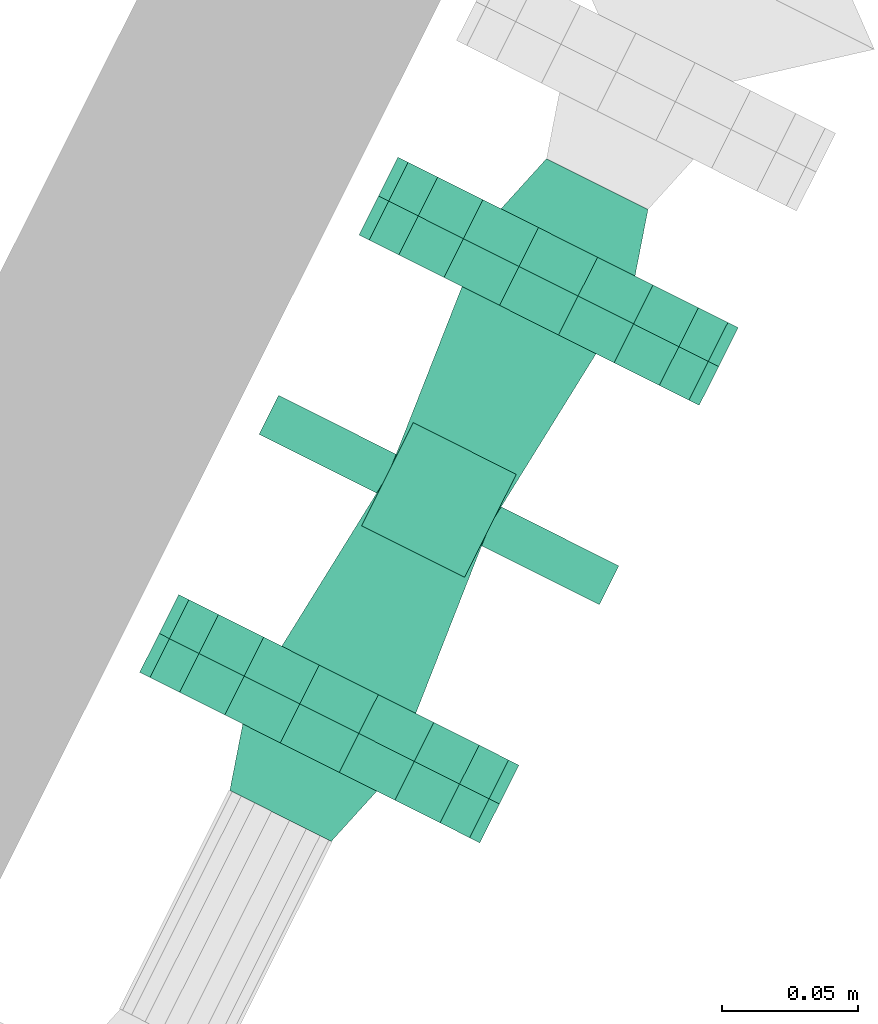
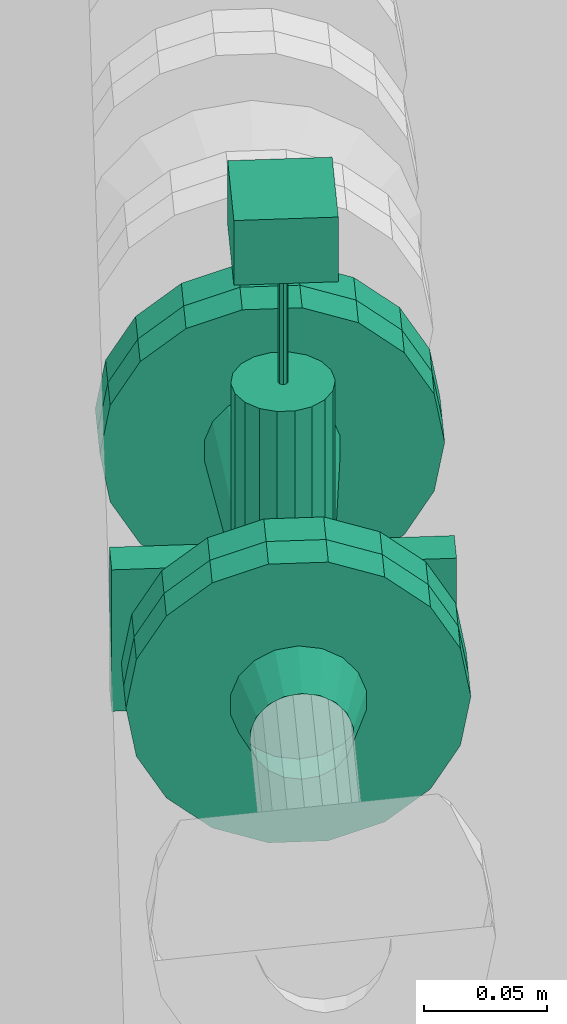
# One storey, part 146 of 206: 2 flow fittings, 1 flow controller.
"""IFC2X3 building model written with IfcOpenShell, lengths in metres."""

import ifcopenshell
import ifcopenshell.guid

model = None  # the IFC model being written
_history = None  # IfcOwnerHistory: only IFC2X3 demands one
_inside = {}  # id of a spatial element -> (the spatial element, [elements in it])
_under = {}  # id of a project, library or spatial element -> (it, [spatial elements below it])
_declared = {}  # id of a project -> (the project, [libraries it declares])
_typed = {}  # id of a type object -> (the type object, [elements of that type])
_made_of = {}  # id of a material, layer set ... -> (it, [elements and type objects made of it])


def new_model(schema):
    """Start an empty IFC model of exactly this schema.

    Asked for "IFC4X3", IfcOpenShell would pick the latest addendum, in which some entities
    have other attributes; the version numbers below select the first issue.
    IFC2X3 requires an IfcOwnerHistory on every rooted entity: one is made here for all.
    """
    global model, _history
    if schema == "IFC4X3":
        model = ifcopenshell.file(schema_version=(4, 3, 0, 0))
    else:
        model = ifcopenshell.file(schema=schema)
    _inside.clear()
    _under.clear()
    _declared.clear()
    _typed.clear()
    _made_of.clear()
    _history = None
    if model.schema == "IFC2X3":
        org = make("IfcOrganization", Name="unknown")
        user = make(
            "IfcPersonAndOrganization",
            ThePerson=make("IfcPerson", FamilyName="unknown"),
            TheOrganization=org,
        )
        app = make(
            "IfcApplication",
            ApplicationDeveloper=org,
            Version="unknown",
            ApplicationFullName="unknown",
            ApplicationIdentifier="unknown",
        )
        _history = make(
            "IfcOwnerHistory",
            OwningUser=user,
            OwningApplication=app,
            ChangeAction="ADDED",
            CreationDate=0,
        )
    return model


def make(cls, **values):
    """One entity of the class cls with the attributes given. An attribute that is None is left unset."""
    return model.create_entity(
        cls, **{name: value for name, value in values.items() if value is not None}
    )


def rooted(cls, **values):
    """An entity with a GlobalId (a new one), such as an element, a storey or a relation."""
    return make(cls, GlobalId=ifcopenshell.guid.new(), OwnerHistory=_history, **values)


def si_unit(unit_type, name, prefix=None):
    """IfcSIUnit, for example si_unit("LENGTHUNIT", "METRE", prefix="MILLI")."""
    return make("IfcSIUnit", UnitType=unit_type, Prefix=prefix, Name=name)


def derived_unit(unit_type, elements):
    """IfcDerivedUnit: a product of units, each with its exponent."""
    return make(
        "IfcDerivedUnit",
        Elements=[
            make("IfcDerivedUnitElement", Unit=unit, Exponent=power)
            for unit, power in elements
        ],
        UnitType=unit_type,
    )


def assignment(units):
    """IfcUnitAssignment: the units of a project."""
    return None if units is None else make("IfcUnitAssignment", Units=units)


def point(xyz):
    """IfcCartesianPoint."""
    return None if xyz is None else make("IfcCartesianPoint", Coordinates=xyz)


def direction(xyz):
    """IfcDirection."""
    return None if xyz is None else make("IfcDirection", DirectionRatios=xyz)


def frame(location, z_axis=None, x_axis=None):
    """IfcAxis2Placement3D, a coordinate frame: its origin and axes. An axis left out is left unset."""
    return make(
        "IfcAxis2Placement3D",
        Location=point(location),
        Axis=direction(z_axis),
        RefDirection=direction(x_axis),
    )


def origin():
    """The frame at (0, 0, 0) with its axes left unset."""
    return frame((0.0, 0.0, 0.0))


def place(relative_to, where):
    """IfcLocalPlacement: puts the frame where relative to a parent placement (None: the world)."""
    return make(
        "IfcLocalPlacement", PlacementRelTo=relative_to, RelativePlacement=where
    )


def context(
    kind, dimensions, precision=None, world=None, true_north=None, identifier=None
):
    """IfcGeometricRepresentationContext, for example the 3D "Model" context."""
    return make(
        "IfcGeometricRepresentationContext",
        ContextIdentifier=identifier,
        ContextType=kind,
        CoordinateSpaceDimension=dimensions,
        Precision=precision,
        WorldCoordinateSystem=world,
        TrueNorth=true_north,
    )


def subcontext(parent, identifier, kind, view, scale=None):
    """IfcGeometricRepresentationSubContext, for example "Body" below "Model"."""
    return make(
        "IfcGeometricRepresentationSubContext",
        ContextIdentifier=identifier,
        ContextType=kind,
        ParentContext=parent,
        TargetScale=scale,
        TargetView=view,
    )


def project(units=None, contexts=None):
    """IfcProject with its units and contexts."""
    return rooted(
        "IfcProject",
        Name="project",
        RepresentationContexts=contexts,
        UnitsInContext=assignment(units),
    )


def spatial(cls, under=None, at=None, **own):
    """A site, building, storey or space (cls), placed at a placement, below another one or the project."""
    s = rooted(cls, ObjectPlacement=at, **own)
    if under is not None:
        _under.setdefault(under.id(), (under, []))[1].append(s)
    return s


def faces_of(points, faces, orient=None, outer=None):
    """IfcFace entities. A face is a list of loops; a loop is a list of indices into points, from 0.

    orient and outer hold one flag for each loop. By default every Orientation is true, the
    first loop of a face is its IfcFaceOuterBound and the others are IfcFaceBound.
    """
    made = []
    for i, loops in enumerate(faces):
        bounds = []
        for j, loop in enumerate(loops):
            is_outer = j == 0 if outer is None else outer[i][j]
            bounds.append(
                make(
                    "IfcFaceOuterBound" if is_outer else "IfcFaceBound",
                    Bound=make("IfcPolyLoop", Polygon=[points[k] for k in loop]),
                    Orientation=True if orient is None else orient[i][j],
                )
            )
        made.append(make("IfcFace", Bounds=bounds))
    return made


def face_set(faces, orient=None, outer=None):
    """The faces of one IfcConnectedFaceSet. surface_model builds it on its shared points."""
    return ("IfcConnectedFaceSet", faces, orient, outer)


def surface_model(cls, points, shells):
    """IfcFaceBasedSurfaceModel or IfcShellBasedSurfaceModel (cls): surfaces that need not close."""
    shared = [point(p) for p in points]
    made = [make(c, CfsFaces=faces_of(shared, fs, o, b)) for c, fs, o, b in shells]
    if cls == "IfcFaceBasedSurfaceModel":
        return make(cls, FbsmFaces=made)
    return make(cls, SbsmBoundary=made)


def shape(context_of_items, identifier, shape_type, items):
    """IfcShapeRepresentation: the items that make up one representation, for example the "Body"."""
    return make(
        "IfcShapeRepresentation",
        ContextOfItems=context_of_items,
        RepresentationIdentifier=identifier,
        RepresentationType=shape_type,
        Items=items,
    )


def source(mapping_origin, context_of_items, identifier, shape_type, items):
    """IfcRepresentationMap: a shape defined once, which mapped items show again and again."""
    return make(
        "IfcRepresentationMap",
        MappingOrigin=mapping_origin,
        MappedRepresentation=shape(context_of_items, identifier, shape_type, items),
    )


def transform(
    local_origin,
    x_axis=None,
    y_axis=None,
    z_axis=None,
    scale=None,
    scale2=None,
    scale3=None,
    uniform=True,
):
    """IfcCartesianTransformationOperator3D, or its non-uniform kind. x_axis, y_axis, z_axis: its Axis1, 2, 3."""
    if uniform:
        return make(
            "IfcCartesianTransformationOperator3D",
            Axis1=direction(x_axis),
            Axis2=direction(y_axis),
            LocalOrigin=point(local_origin),
            Scale=scale,
            Axis3=direction(z_axis),
        )
    return make(
        "IfcCartesianTransformationOperator3DnonUniform",
        Axis1=direction(x_axis),
        Axis2=direction(y_axis),
        LocalOrigin=point(local_origin),
        Scale=scale,
        Axis3=direction(z_axis),
        Scale2=scale2,
        Scale3=scale3,
    )


def mapped(mapping_source, mapping_target):
    """IfcMappedItem: shows the shape of a source again, moved by a transform."""
    return make(
        "IfcMappedItem", MappingSource=mapping_source, MappingTarget=mapping_target
    )


def material(Name=None, Category=None):
    """IfcMaterial."""
    return make("IfcMaterial", Name=Name, Category=Category)


def made_of(thing, what):
    """Note that an element or type object is made of a material, layer set ...; save() writes the relation."""
    if what is not None:
        _made_of.setdefault(what.id(), (what, []))[1].append(thing)
    return thing


def type_object(cls, material=None, **own):
    """A type object (cls), such as IfcWallType, which elements share."""
    return made_of(rooted(cls, **own), material)


def type_shapes(of_type, sources):
    """Give a type object the sources (RepresentationMaps) that its elements show as mapped items."""
    of_type.RepresentationMaps = sources


def element(
    cls,
    number,
    at=None,
    inside=None,
    cuts=None,
    type_object=None,
    material=None,
    context=None,
    identifier="Body",
    shape_type=None,
    held_by="IfcProductDefinitionShape",
    body=None,
    shapes=None,
    **own,
):
    """One element of the class cls, such as IfcWall. Its Tag is "e" and its number.

    at: its placement. inside: the storey or other place that contains it. cuts: it is an
    opening in that element (IfcRelVoidsElement). A single representation is given by context,
    identifier, shape_type and body (its items); several are given by shapes. held_by: the class
    of the entity that holds the representations. save() writes the other relations.
    """
    e = rooted(cls, Tag="e%d" % number, ObjectPlacement=at, **own)
    if body is not None:
        shapes = [shape(context, identifier, shape_type, body)]
    if shapes is not None:
        e.Representation = make(held_by, Representations=shapes)
    if inside is not None:
        _inside.setdefault(inside.id(), (inside, []))[1].append(e)
    if cuts is not None:
        rooted(
            "IfcRelVoidsElement", RelatingBuildingElement=cuts, RelatedOpeningElement=e
        )
    if type_object is not None:
        _typed.setdefault(type_object.id(), (type_object, []))[1].append(e)
    return made_of(e, material)


def aggregate(whole, parts):
    """IfcRelAggregates: a whole, such as a stair, and the parts it consists of."""
    return rooted("IfcRelAggregates", RelatingObject=whole, RelatedObjects=parts)


def save(model, path):
    """Write the relations noted so far, then the file.

    IfcRelAggregates (storeys below a building ...), IfcRelContainedInSpatialStructure (elements
    in a storey), IfcRelDefinesByType, IfcRelAssociatesMaterial and IfcRelDeclares: one each for
    every whole, place, type object, material and project.
    """
    for whole, parts in _under.values():
        aggregate(whole, parts)
    for where, things in _inside.values():
        rooted(
            "IfcRelContainedInSpatialStructure",
            RelatedElements=things,
            RelatingStructure=where,
        )
    for kind, things in _typed.values():
        rooted("IfcRelDefinesByType", RelatedObjects=things, RelatingType=kind)
    for what, things in _made_of.values():
        rooted("IfcRelAssociatesMaterial", RelatedObjects=things, RelatingMaterial=what)
    for by, libraries in _declared.values():
        rooted("IfcRelDeclares", RelatingContext=by, RelatedDefinitions=libraries)
    model.write(path)


model = new_model("IFC2X3")

# Units and contexts
model_context = context("Model", 3, precision=5.2338327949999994e-05, world=origin(), true_north=direction((0.0, 1.0)))
body_context = subcontext(model_context, "Body", "Model", "MODEL_VIEW")
ifc_project = project(units=[si_unit("LENGTHUNIT", "METRE"), si_unit("AREAUNIT", "SQUARE_METRE"), si_unit("VOLUMEUNIT", "CUBIC_METRE"), si_unit("MASSUNIT", "GRAM", prefix="KILO"), si_unit("PLANEANGLEUNIT", "RADIAN"), derived_unit("THERMALTRANSMITTANCEUNIT", [(si_unit("MASSUNIT", "GRAM", prefix="KILO"), 1), (si_unit("THERMODYNAMICTEMPERATUREUNIT", "KELVIN"), -1), (si_unit("TIMEUNIT", "SECOND"), -3)])], contexts=[model_context])

# Site, building, storey
site_placement = place(None, frame((0.0, 0.0, 0.0), z_axis=(0.0, 0.0, 1.0), x_axis=(0.8939966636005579, -0.4480736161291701, 0.0)))
site = spatial("IfcSite", under=ifc_project, at=site_placement, Name="Default", CompositionType="ELEMENT")
building_placement = place(site_placement, origin())
building = spatial("IfcBuilding", under=site, at=building_placement, CompositionType="ELEMENT")
storey_placement = place(building_placement, origin())
storey = spatial("IfcBuildingStorey", under=building, at=storey_placement, Name="Erdgeschoss", CompositionType="ELEMENT", Elevation=0.0)

# Flow fitting
ifc_material = material(Name="IfcSurfaceStyle #352577")
distribution_element_type_1 = type_object("IfcDistributionElementType", Name="Flansch 608632:Flansch 608632", material=ifc_material)
shared_shape_1 = source(origin(), body_context, "Body", "SurfaceModel", [
    surface_model("IfcFaceBasedSurfaceModel", [(29.08181854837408, 9.155162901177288, 1.5628041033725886), (29.074567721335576, 9.155162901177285, 1.5640826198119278), (29.072241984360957, 9.179162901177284, 1.5576927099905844), (29.08181854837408, 9.179162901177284, 1.5560041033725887), (29.06819145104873, 9.155162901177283, 1.5677639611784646), (29.06382049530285, 9.17916290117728, 1.5625548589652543), (29.063458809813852, 9.155162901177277, 1.5734041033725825), (29.05756983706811, 9.179162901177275, 1.5700041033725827), (29.060940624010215, 9.155162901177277, 1.5803227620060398), (29.054243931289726, 9.179162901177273, 1.579141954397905), (29.06094062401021, 9.155162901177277, 1.5876854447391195), (29.054243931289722, 9.179162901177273, 1.5888662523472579), (29.06345880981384, 9.155162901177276, 1.5946041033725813), (29.057569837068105, 9.179162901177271, 1.5980041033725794), (29.068191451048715, 9.15516290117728, 1.6002442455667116), (29.063820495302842, 9.179162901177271, 1.6054533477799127), (29.074567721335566, 9.15516290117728, 1.6039255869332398), (29.072241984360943, 9.179162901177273, 1.6103154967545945), (29.081818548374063, 9.155162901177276, 1.6052041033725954), (29.08181854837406, 9.179162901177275, 1.612004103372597), (29.08906937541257, 9.155162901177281, 1.603925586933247), (29.091395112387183, 9.17916290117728, 1.6103154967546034), (29.095445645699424, 9.155162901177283, 1.600244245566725), (29.099816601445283, 9.17916290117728, 1.6054533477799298), (29.1001782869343, 9.155162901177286, 1.594604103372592), (29.10606725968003, 9.179162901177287, 1.5980041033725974), (29.102696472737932, 9.155162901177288, 1.587685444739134), (29.10939316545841, 9.179162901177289, 1.5888662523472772), (29.102696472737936, 9.155162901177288, 1.5803227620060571), (29.109393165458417, 9.179162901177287, 1.5791419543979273), (29.10017828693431, 9.15516290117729, 1.5734041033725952), (29.10606725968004, 9.179162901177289, 1.5700041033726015), (29.09544564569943, 9.15516290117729, 1.5677639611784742), (29.0998166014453, 9.17916290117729, 1.5625548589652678), (29.08906937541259, 9.15516290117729, 1.5640826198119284), (29.0913951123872, 9.179162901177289, 1.5576927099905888), (29.15181854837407, 9.1791629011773, 1.5840041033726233), (29.14759703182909, 9.179162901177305, 1.5600626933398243), (29.147597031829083, 9.195162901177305, 1.5600626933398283), (29.15181854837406, 9.195162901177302, 1.5840041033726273), (29.135441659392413, 9.179162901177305, 1.539008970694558), (29.135441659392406, 9.195162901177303, 1.5390089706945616), (29.116818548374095, 9.179162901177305, 1.5233823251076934), (29.116818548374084, 9.195162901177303, 1.523382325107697), (29.093973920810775, 9.179162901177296, 1.515067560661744), (29.093973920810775, 9.195162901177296, 1.5150675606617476), (29.06966317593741, 9.17916290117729, 1.5150675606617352), (29.069663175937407, 9.195162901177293, 1.515067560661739), (29.046818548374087, 9.179162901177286, 1.5233823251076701), (29.046818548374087, 9.195162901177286, 1.5233823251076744), (29.028195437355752, 9.179162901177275, 1.539008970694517), (29.028195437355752, 9.195162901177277, 1.5390089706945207), (29.01604006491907, 9.17916290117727, 1.560062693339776), (29.01604006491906, 9.195162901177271, 1.56006269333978), (29.011818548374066, 9.179162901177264, 1.5840041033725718), (29.011818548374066, 9.195162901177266, 1.5840041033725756), (29.016040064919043, 9.179162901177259, 1.607945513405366), (29.016040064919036, 9.19516290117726, 1.6079455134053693), (29.028195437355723, 9.17916290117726, 1.6289992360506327), (29.028195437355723, 9.19516290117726, 1.6289992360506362), (29.046818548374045, 9.179162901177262, 1.6446258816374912), (29.04681854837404, 9.195162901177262, 1.644625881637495), (29.06966317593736, 9.179162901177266, 1.6529406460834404), (29.06966317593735, 9.195162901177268, 1.6529406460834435), (29.09397392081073, 9.179162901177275, 1.6529406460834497), (29.09397392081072, 9.195162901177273, 1.6529406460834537), (29.11681854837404, 9.17916290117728, 1.644625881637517), (29.116818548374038, 9.19516290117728, 1.6446258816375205), (29.135441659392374, 9.179162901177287, 1.6289992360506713), (29.135441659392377, 9.195162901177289, 1.628999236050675), (29.14759703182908, 9.179162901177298, 1.6079455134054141), (29.14759703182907, 9.195162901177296, 1.6079455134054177), (29.081818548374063, 9.179162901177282, 1.5840041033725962)], [face_set([[[0, 1, 2, 3]], [[1, 4, 5, 2]], [[4, 6, 7, 5]], [[6, 8, 9, 7]], [[8, 10, 11, 9]], [[10, 12, 13, 11]], [[12, 14, 15, 13]], [[14, 16, 17, 15]], [[16, 18, 19, 17]], [[18, 20, 21, 19]], [[20, 22, 23, 21]], [[22, 24, 25, 23]], [[24, 26, 27, 25]], [[26, 28, 29, 27]], [[28, 30, 31, 29]], [[30, 32, 33, 31]], [[32, 34, 35, 33]], [[34, 0, 3, 35]], [[36, 37, 38, 39]], [[37, 40, 41, 38]], [[40, 42, 43, 41]], [[42, 44, 45, 43]], [[44, 46, 47, 45]], [[46, 48, 49, 47]], [[48, 50, 51, 49]], [[50, 52, 53, 51]], [[52, 54, 55, 53]], [[54, 56, 57, 55]], [[56, 58, 59, 57]], [[58, 60, 61, 59]], [[60, 62, 63, 61]], [[62, 64, 65, 63]], [[64, 66, 67, 65]], [[66, 68, 69, 67]], [[68, 70, 71, 69]], [[70, 36, 39, 71]], [[72, 37, 36]], [[72, 40, 37]], [[72, 42, 40]], [[72, 44, 42]], [[72, 46, 44]], [[72, 48, 46]], [[72, 50, 48]], [[72, 52, 50]], [[72, 54, 52]], [[72, 56, 54]], [[72, 58, 56]], [[72, 60, 58]], [[72, 62, 60]], [[72, 64, 62]], [[72, 66, 64]], [[72, 68, 66]], [[72, 70, 68]], [[72, 36, 70]]])]),
])
type_shapes(distribution_element_type_1, [shared_shape_1])
flow_fitting_1_placement = place(storey_placement, origin())
element("IfcFlowFitting", 1, at=flow_fitting_1_placement, inside=storey, type_object=distribution_element_type_1, material=ifc_material, Name="Flansch", ObjectType="Flansch", context=body_context, shape_type="MappedRepresentation", body=[
    mapped(shared_shape_1, transform((0.0, 0.0, 0.0), scale=1.0)),
])

# Flow controller
distribution_element_type_2 = type_object("IfcDistributionElementType", Name="Schieber 608661:Schieber 608661", material=ifc_material)
shared_shape_2 = source(origin(), body_context, "Body", "SurfaceModel", [
    surface_model("IfcFaceBasedSurfaceModel", [(29.060618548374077, 9.263962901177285, 1.7320041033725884), (29.060618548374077, 9.306362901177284, 1.7320041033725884), (29.103018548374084, 9.306362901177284, 1.7320041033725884), (29.103018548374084, 9.263962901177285, 1.7320041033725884), (29.103018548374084, 9.306362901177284, 1.7640041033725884), (29.103018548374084, 9.263962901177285, 1.7640041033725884), (29.060618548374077, 9.306362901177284, 1.7640041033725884), (29.060618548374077, 9.263962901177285, 1.7640041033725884), (29.151818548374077, 9.195162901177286, 1.5840041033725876), (29.147597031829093, 9.195162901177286, 1.5600626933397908), (29.147597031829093, 9.211162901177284, 1.5600626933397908), (29.151818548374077, 9.211162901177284, 1.5840041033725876), (29.135441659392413, 9.195162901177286, 1.5390089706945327), (29.135441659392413, 9.211162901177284, 1.5390089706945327), (29.11681854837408, 9.195162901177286, 1.5233823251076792), (29.11681854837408, 9.211162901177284, 1.5233823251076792), (29.093973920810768, 9.195162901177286, 1.5150675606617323), (29.093973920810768, 9.211162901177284, 1.5150675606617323), (29.069663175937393, 9.195162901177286, 1.5150675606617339), (29.069663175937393, 9.211162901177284, 1.5150675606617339), (29.046818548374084, 9.195162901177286, 1.5233823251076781), (29.046818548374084, 9.211162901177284, 1.5233823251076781), (29.028195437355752, 9.195162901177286, 1.5390089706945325), (29.028195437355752, 9.211162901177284, 1.5390089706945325), (29.016040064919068, 9.195162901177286, 1.5600626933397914), (29.016040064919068, 9.211162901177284, 1.5600626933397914), (29.011818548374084, 9.195162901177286, 1.5840041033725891), (29.011818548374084, 9.211162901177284, 1.5840041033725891), (29.016040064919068, 9.195162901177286, 1.6079455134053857), (29.016040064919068, 9.211162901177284, 1.6079455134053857), (29.028195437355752, 9.195162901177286, 1.6289992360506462), (29.028195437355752, 9.211162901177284, 1.6289992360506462), (29.046818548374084, 9.195162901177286, 1.644625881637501), (29.046818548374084, 9.211162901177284, 1.644625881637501), (29.069663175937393, 9.195162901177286, 1.6529406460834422), (29.069663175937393, 9.211162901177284, 1.6529406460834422), (29.093973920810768, 9.195162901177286, 1.652940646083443), (29.093973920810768, 9.211162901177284, 1.652940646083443), (29.11681854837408, 9.195162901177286, 1.6446258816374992), (29.11681854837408, 9.211162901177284, 1.6446258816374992), (29.135441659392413, 9.195162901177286, 1.6289992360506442), (29.135441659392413, 9.211162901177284, 1.6289992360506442), (29.147597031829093, 9.195162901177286, 1.6079455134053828), (29.147597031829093, 9.211162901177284, 1.6079455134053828), (29.08181854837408, 9.195162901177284, 1.5840041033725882), (29.08181854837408, 9.211162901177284, 1.5840041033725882), (29.08181854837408, 9.211162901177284, 1.5560041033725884), (29.07224198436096, 9.211162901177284, 1.5576927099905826), (29.07456772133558, 9.285162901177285, 1.564082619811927), (29.081818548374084, 9.285162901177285, 1.5628041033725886), (29.06382049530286, 9.211162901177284, 1.5625548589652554), (29.06819145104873, 9.285162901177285, 1.5677639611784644), (29.057569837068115, 9.211162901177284, 1.570004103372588), (29.063458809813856, 9.285162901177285, 1.573404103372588), (29.05424393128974, 9.211162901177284, 1.5791419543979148), (29.060940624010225, 9.285162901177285, 1.5803227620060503), (29.054243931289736, 9.211162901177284, 1.5888662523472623), (29.06094062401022, 9.285162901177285, 1.587685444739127), (29.057569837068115, 9.211162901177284, 1.5980041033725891), (29.063458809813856, 9.285162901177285, 1.594604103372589), (29.06382049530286, 9.211162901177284, 1.6054533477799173), (29.06819145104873, 9.285162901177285, 1.6002442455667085), (29.07224198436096, 9.211162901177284, 1.610315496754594), (29.07456772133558, 9.285162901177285, 1.6039255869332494), (29.08181854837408, 9.211162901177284, 1.6120041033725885), (29.081818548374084, 9.285162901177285, 1.6052041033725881), (29.0913951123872, 9.211162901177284, 1.6103154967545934), (29.08906937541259, 9.285162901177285, 1.6039255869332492), (29.0998166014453, 9.211162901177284, 1.6054533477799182), (29.095445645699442, 9.285162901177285, 1.6002442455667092), (29.106067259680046, 9.211162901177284, 1.5980041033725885), (29.100178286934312, 9.285162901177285, 1.5946041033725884), (29.109393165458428, 9.211162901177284, 1.588866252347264), (29.102696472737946, 9.285162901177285, 1.5876854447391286), (29.109393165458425, 9.211162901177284, 1.5791419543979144), (29.10269647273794, 9.285162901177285, 1.5803227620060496), (29.106067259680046, 9.211162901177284, 1.5700041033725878), (29.10017828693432, 9.285162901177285, 1.5734041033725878), (29.0998166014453, 9.211162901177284, 1.5625548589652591), (29.095445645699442, 9.285162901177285, 1.5677639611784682), (29.0913951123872, 9.211162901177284, 1.5576927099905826), (29.08906937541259, 9.285162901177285, 1.564082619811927), (29.072241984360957, 9.359162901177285, 1.5576927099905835), (29.08181854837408, 9.359162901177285, 1.556004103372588), (29.063820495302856, 9.359162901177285, 1.5625548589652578), (29.05756983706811, 9.359162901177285, 1.570004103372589), (29.054243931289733, 9.359162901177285, 1.5791419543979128), (29.054243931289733, 9.359162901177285, 1.588866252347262), (29.05756983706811, 9.359162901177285, 1.5980041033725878), (29.063820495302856, 9.359162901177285, 1.6054533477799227), (29.072241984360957, 9.359162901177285, 1.6103154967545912), (29.08181854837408, 9.359162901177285, 1.6120041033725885), (29.091395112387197, 9.359162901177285, 1.610315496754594), (29.0998166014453, 9.359162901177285, 1.6054533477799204), (29.10606725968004, 9.359162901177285, 1.598004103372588), (29.10939316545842, 9.359162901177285, 1.5888662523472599), (29.109393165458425, 9.359162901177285, 1.5791419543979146), (29.10606725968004, 9.359162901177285, 1.570004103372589), (29.0998166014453, 9.359162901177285, 1.5625548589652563), (29.091395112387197, 9.359162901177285, 1.557692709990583), (29.151818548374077, 9.359162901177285, 1.5840041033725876), (29.147597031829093, 9.359162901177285, 1.5600626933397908), (29.147597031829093, 9.375162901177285, 1.5600626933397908), (29.151818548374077, 9.375162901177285, 1.5840041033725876), (29.135441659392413, 9.359162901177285, 1.5390089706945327), (29.135441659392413, 9.375162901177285, 1.5390089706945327), (29.11681854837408, 9.359162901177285, 1.5233823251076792), (29.11681854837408, 9.375162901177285, 1.5233823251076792), (29.093973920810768, 9.359162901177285, 1.5150675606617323), (29.093973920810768, 9.375162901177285, 1.5150675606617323), (29.069663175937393, 9.359162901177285, 1.5150675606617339), (29.069663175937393, 9.375162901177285, 1.5150675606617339), (29.046818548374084, 9.359162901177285, 1.5233823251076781), (29.046818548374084, 9.375162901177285, 1.5233823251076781), (29.028195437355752, 9.359162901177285, 1.5390089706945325), (29.028195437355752, 9.375162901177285, 1.5390089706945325), (29.016040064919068, 9.359162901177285, 1.5600626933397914), (29.016040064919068, 9.375162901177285, 1.5600626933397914), (29.011818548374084, 9.359162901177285, 1.5840041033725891), (29.011818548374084, 9.375162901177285, 1.5840041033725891), (29.016040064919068, 9.359162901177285, 1.6079455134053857), (29.016040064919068, 9.375162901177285, 1.6079455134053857), (29.028195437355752, 9.359162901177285, 1.6289992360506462), (29.028195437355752, 9.375162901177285, 1.6289992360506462), (29.046818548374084, 9.359162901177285, 1.644625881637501), (29.046818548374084, 9.375162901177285, 1.644625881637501), (29.069663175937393, 9.359162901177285, 1.6529406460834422), (29.069663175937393, 9.375162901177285, 1.6529406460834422), (29.093973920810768, 9.359162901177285, 1.652940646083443), (29.093973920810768, 9.375162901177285, 1.652940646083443), (29.11681854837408, 9.359162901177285, 1.6446258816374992), (29.11681854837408, 9.375162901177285, 1.6446258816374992), (29.135441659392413, 9.359162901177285, 1.6289992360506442), (29.135441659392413, 9.375162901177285, 1.6289992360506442), (29.147597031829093, 9.359162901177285, 1.6079455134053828), (29.147597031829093, 9.375162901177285, 1.6079455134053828), (29.08181854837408, 9.359162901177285, 1.5840041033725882), (29.08181854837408, 9.375162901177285, 1.5840041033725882), (29.10301854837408, 9.285162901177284, 1.5840041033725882), (29.101740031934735, 9.292413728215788, 1.5840041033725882), (29.101740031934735, 9.292413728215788, 1.668604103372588), (29.10301854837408, 9.285162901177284, 1.668604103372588), (29.098058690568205, 9.298789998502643, 1.5840041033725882), (29.098058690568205, 9.298789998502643, 1.668604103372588), (29.092418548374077, 9.303522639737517, 1.5840041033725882), (29.092418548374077, 9.303522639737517, 1.668604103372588), (29.085499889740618, 9.306040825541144, 1.5840041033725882), (29.085499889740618, 9.306040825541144, 1.668604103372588), (29.078137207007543, 9.306040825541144, 1.5840041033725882), (29.078137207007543, 9.306040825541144, 1.668604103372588), (29.071218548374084, 9.303522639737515, 1.5840041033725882), (29.071218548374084, 9.303522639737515, 1.668604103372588), (29.065578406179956, 9.298789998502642, 1.5840041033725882), (29.065578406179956, 9.298789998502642, 1.668604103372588), (29.06189706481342, 9.292413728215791, 1.5840041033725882), (29.06189706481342, 9.292413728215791, 1.668604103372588), (29.060618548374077, 9.285162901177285, 1.5840041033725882), (29.060618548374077, 9.285162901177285, 1.668604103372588), (29.061897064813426, 9.277912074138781, 1.5840041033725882), (29.061897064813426, 9.277912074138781, 1.668604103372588), (29.065578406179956, 9.27153580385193, 1.5840041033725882), (29.065578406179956, 9.27153580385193, 1.668604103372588), (29.071218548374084, 9.266803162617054, 1.5840041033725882), (29.071218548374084, 9.266803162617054, 1.668604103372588), (29.078137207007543, 9.264284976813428, 1.5840041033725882), (29.078137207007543, 9.264284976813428, 1.668604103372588), (29.085499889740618, 9.264284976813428, 1.5840041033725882), (29.085499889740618, 9.264284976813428, 1.668604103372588), (29.092418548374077, 9.266803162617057, 1.5840041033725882), (29.092418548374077, 9.266803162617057, 1.668604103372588), (29.098058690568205, 9.27153580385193, 1.5840041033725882), (29.098058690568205, 9.27153580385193, 1.668604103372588), (29.10174003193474, 9.27791207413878, 1.5840041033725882), (29.10174003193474, 9.27791207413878, 1.668604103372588), (29.08181854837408, 9.285162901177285, 1.584004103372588), (29.08181854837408, 9.285162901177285, 1.668604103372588), (29.08393854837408, 9.285162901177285, 1.668604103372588), (29.083317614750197, 9.286661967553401, 1.668604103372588), (29.083317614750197, 9.286661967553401, 1.7320041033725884), (29.08393854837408, 9.285162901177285, 1.7320041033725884), (29.08181854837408, 9.287282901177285, 1.668604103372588), (29.08181854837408, 9.287282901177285, 1.7320041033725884), (29.080319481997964, 9.286661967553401, 1.668604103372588), (29.080319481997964, 9.286661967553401, 1.7320041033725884), (29.079698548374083, 9.285162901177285, 1.668604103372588), (29.079698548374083, 9.285162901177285, 1.7320041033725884), (29.080319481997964, 9.28366383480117, 1.668604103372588), (29.080319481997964, 9.28366383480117, 1.7320041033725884), (29.08181854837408, 9.283042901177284, 1.668604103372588), (29.08181854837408, 9.283042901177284, 1.7320041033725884), (29.083317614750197, 9.283663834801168, 1.668604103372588), (29.083317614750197, 9.283663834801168, 1.7320041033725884), (29.08181854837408, 9.285162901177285, 1.732004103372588), (29.011818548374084, 9.277162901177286, 1.5140041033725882), (29.011818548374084, 9.293162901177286, 1.5140041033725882), (29.151818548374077, 9.293162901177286, 1.5140041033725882), (29.151818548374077, 9.277162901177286, 1.5140041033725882), (29.151818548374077, 9.293162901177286, 1.5840041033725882), (29.151818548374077, 9.277162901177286, 1.5840041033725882), (29.011818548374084, 9.293162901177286, 1.5840041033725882), (29.011818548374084, 9.277162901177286, 1.5840041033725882)], [face_set([[[0, 1, 2, 3]], [[3, 2, 4, 5]], [[5, 4, 6, 7]], [[7, 6, 1, 0]], [[0, 3, 5, 7]], [[6, 4, 2, 1]], [[8, 9, 10, 11]], [[9, 12, 13, 10]], [[12, 14, 15, 13]], [[14, 16, 17, 15]], [[16, 18, 19, 17]], [[18, 20, 21, 19]], [[20, 22, 23, 21]], [[22, 24, 25, 23]], [[24, 26, 27, 25]], [[26, 28, 29, 27]], [[28, 30, 31, 29]], [[30, 32, 33, 31]], [[32, 34, 35, 33]], [[34, 36, 37, 35]], [[36, 38, 39, 37]], [[38, 40, 41, 39]], [[40, 42, 43, 41]], [[42, 8, 11, 43]], [[44, 9, 8]], [[44, 12, 9]], [[44, 14, 12]], [[44, 16, 14]], [[44, 18, 16]], [[44, 20, 18]], [[44, 22, 20]], [[44, 24, 22]], [[44, 26, 24]], [[44, 28, 26]], [[44, 30, 28]], [[44, 32, 30]], [[44, 34, 32]], [[44, 36, 34]], [[44, 38, 36]], [[44, 40, 38]], [[44, 42, 40]], [[44, 8, 42]], [[45, 43, 11]], [[45, 41, 43]], [[45, 39, 41]], [[45, 37, 39]], [[45, 35, 37]], [[45, 33, 35]], [[45, 31, 33]], [[45, 29, 31]], [[45, 27, 29]], [[45, 25, 27]], [[45, 23, 25]], [[45, 21, 23]], [[45, 19, 21]], [[45, 17, 19]], [[45, 15, 17]], [[45, 13, 15]], [[45, 10, 13]], [[45, 11, 10]], [[46, 47, 48, 49]], [[47, 50, 51, 48]], [[50, 52, 53, 51]], [[52, 54, 55, 53]], [[54, 56, 57, 55]], [[56, 58, 59, 57]], [[58, 60, 61, 59]], [[60, 62, 63, 61]], [[62, 64, 65, 63]], [[64, 66, 67, 65]], [[66, 68, 69, 67]], [[68, 70, 71, 69]], [[70, 72, 73, 71]], [[72, 74, 75, 73]], [[74, 76, 77, 75]], [[76, 78, 79, 77]], [[78, 80, 81, 79]], [[80, 46, 49, 81]], [[49, 48, 82, 83]], [[48, 51, 84, 82]], [[51, 53, 85, 84]], [[53, 55, 86, 85]], [[55, 57, 87, 86]], [[57, 59, 88, 87]], [[59, 61, 89, 88]], [[61, 63, 90, 89]], [[63, 65, 91, 90]], [[65, 67, 92, 91]], [[67, 69, 93, 92]], [[69, 71, 94, 93]], [[71, 73, 95, 94]], [[73, 75, 96, 95]], [[75, 77, 97, 96]], [[77, 79, 98, 97]], [[79, 81, 99, 98]], [[81, 49, 83, 99]], [[100, 101, 102, 103]], [[101, 104, 105, 102]], [[104, 106, 107, 105]], [[106, 108, 109, 107]], [[108, 110, 111, 109]], [[110, 112, 113, 111]], [[112, 114, 115, 113]], [[114, 116, 117, 115]], [[116, 118, 119, 117]], [[118, 120, 121, 119]], [[120, 122, 123, 121]], [[122, 124, 125, 123]], [[124, 126, 127, 125]], [[126, 128, 129, 127]], [[128, 130, 131, 129]], [[130, 132, 133, 131]], [[132, 134, 135, 133]], [[134, 100, 103, 135]], [[136, 101, 100]], [[136, 104, 101]], [[136, 106, 104]], [[136, 108, 106]], [[136, 110, 108]], [[136, 112, 110]], [[136, 114, 112]], [[136, 116, 114]], [[136, 118, 116]], [[136, 120, 118]], [[136, 122, 120]], [[136, 124, 122]], [[136, 126, 124]], [[136, 128, 126]], [[136, 130, 128]], [[136, 132, 130]], [[136, 134, 132]], [[136, 100, 134]], [[137, 135, 103]], [[137, 133, 135]], [[137, 131, 133]], [[137, 129, 131]], [[137, 127, 129]], [[137, 125, 127]], [[137, 123, 125]], [[137, 121, 123]], [[137, 119, 121]], [[137, 117, 119]], [[137, 115, 117]], [[137, 113, 115]], [[137, 111, 113]], [[137, 109, 111]], [[137, 107, 109]], [[137, 105, 107]], [[137, 102, 105]], [[137, 103, 102]], [[138, 139, 140, 141]], [[139, 142, 143, 140]], [[142, 144, 145, 143]], [[144, 146, 147, 145]], [[146, 148, 149, 147]], [[148, 150, 151, 149]], [[150, 152, 153, 151]], [[152, 154, 155, 153]], [[154, 156, 157, 155]], [[156, 158, 159, 157]], [[158, 160, 161, 159]], [[160, 162, 163, 161]], [[162, 164, 165, 163]], [[164, 166, 167, 165]], [[166, 168, 169, 167]], [[168, 170, 171, 169]], [[170, 172, 173, 171]], [[172, 138, 141, 173]], [[174, 139, 138]], [[174, 142, 139]], [[174, 144, 142]], [[174, 146, 144]], [[174, 148, 146]], [[174, 150, 148]], [[174, 152, 150]], [[174, 154, 152]], [[174, 156, 154]], [[174, 158, 156]], [[174, 160, 158]], [[174, 162, 160]], [[174, 164, 162]], [[174, 166, 164]], [[174, 168, 166]], [[174, 170, 168]], [[174, 172, 170]], [[174, 138, 172]], [[175, 173, 141]], [[175, 171, 173]], [[175, 169, 171]], [[175, 167, 169]], [[175, 165, 167]], [[175, 163, 165]], [[175, 161, 163]], [[175, 159, 161]], [[175, 157, 159]], [[175, 155, 157]], [[175, 153, 155]], [[175, 151, 153]], [[175, 149, 151]], [[175, 147, 149]], [[175, 145, 147]], [[175, 143, 145]], [[175, 140, 143]], [[175, 141, 140]], [[176, 177, 178, 179]], [[177, 180, 181, 178]], [[180, 182, 183, 181]], [[182, 184, 185, 183]], [[184, 186, 187, 185]], [[186, 188, 189, 187]], [[188, 190, 191, 189]], [[190, 176, 179, 191]], [[192, 191, 179]], [[192, 189, 191]], [[192, 187, 189]], [[192, 185, 187]], [[192, 183, 185]], [[192, 181, 183]], [[192, 178, 181]], [[192, 179, 178]], [[193, 194, 195, 196]], [[196, 195, 197, 198]], [[198, 197, 199, 200]], [[200, 199, 194, 193]], [[193, 196, 198, 200]], [[199, 197, 195, 194]]])]),
])
type_shapes(distribution_element_type_2, [shared_shape_2])
flow_controller_placement = place(storey_placement, origin())
element("IfcFlowController", 2, at=flow_controller_placement, inside=storey, type_object=distribution_element_type_2, material=ifc_material, Name="Schieber", ObjectType="Schieber", context=body_context, shape_type="MappedRepresentation", body=[
    mapped(shared_shape_2, transform((0.0, 0.0, 0.0), scale=1.0)),
])

# Flow fitting
distribution_element_type_3 = type_object("IfcDistributionElementType", Name="Flansch 610219:Flansch 610219", material=ifc_material)
shared_shape_3 = source(origin(), body_context, "Body", "SurfaceModel", [
    surface_model("IfcFaceBasedSurfaceModel", [(29.08181854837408, 9.415162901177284, 1.605204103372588), (29.074567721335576, 9.415162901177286, 1.6039255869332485), (29.072241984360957, 9.391162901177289, 1.6103154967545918), (29.08181854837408, 9.391162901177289, 1.6120041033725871), (29.06819145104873, 9.41516290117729, 1.6002442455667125), (29.06382049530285, 9.39116290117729, 1.6054533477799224), (29.063458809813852, 9.415162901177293, 1.5946041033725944), (29.05756983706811, 9.391162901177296, 1.5980041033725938), (29.060940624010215, 9.415162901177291, 1.5876854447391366), (29.054243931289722, 9.3911629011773, 1.588866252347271), (29.060940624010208, 9.415162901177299, 1.580322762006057), (29.054243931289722, 9.3911629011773, 1.5791419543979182), (29.06345880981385, 9.415162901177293, 1.5734041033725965), (29.057569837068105, 9.391162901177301, 1.570004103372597), (29.068191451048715, 9.415162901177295, 1.5677639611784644), (29.063820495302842, 9.391162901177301, 1.562554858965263), (29.074567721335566, 9.415162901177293, 1.564082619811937), (29.072241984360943, 9.391162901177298, 1.557692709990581), (29.081818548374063, 9.415162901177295, 1.562804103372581), (29.08181854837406, 9.391162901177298, 1.5560041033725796), (29.08906937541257, 9.415162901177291, 1.5640826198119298), (29.091395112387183, 9.391162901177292, 1.5576927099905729), (29.095445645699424, 9.41516290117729, 1.567763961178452), (29.099816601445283, 9.391162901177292, 1.5625548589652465), (29.1001782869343, 9.415162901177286, 1.5734041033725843), (29.10606725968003, 9.391162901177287, 1.5700041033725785), (29.102696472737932, 9.415162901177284, 1.580322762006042), (29.10939316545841, 9.391162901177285, 1.5791419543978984), (29.102696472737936, 9.41516290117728, 1.5876854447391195), (29.109393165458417, 9.391162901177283, 1.5888662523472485), (29.10017828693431, 9.41516290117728, 1.5946041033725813), (29.10606725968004, 9.391162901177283, 1.598004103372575), (29.09544564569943, 9.41516290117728, 1.6002442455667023), (29.0998166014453, 9.391162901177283, 1.6054533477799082), (29.08906937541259, 9.41516290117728, 1.6039255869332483), (29.091395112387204, 9.391162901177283, 1.6103154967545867), (29.15181854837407, 9.391162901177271, 1.584004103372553), (29.14759703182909, 9.391162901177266, 1.6079455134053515), (29.147597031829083, 9.375162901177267, 1.6079455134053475), (29.15181854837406, 9.37516290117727, 1.5840041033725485), (29.135441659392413, 9.391162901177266, 1.628999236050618), (29.135441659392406, 9.375162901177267, 1.6289992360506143), (29.116818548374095, 9.391162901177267, 1.644625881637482), (29.116818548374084, 9.375162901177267, 1.6446258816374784), (29.093973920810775, 9.391162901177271, 1.6529406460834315), (29.093973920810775, 9.375162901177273, 1.6529406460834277), (29.06966317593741, 9.39116290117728, 1.6529406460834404), (29.069663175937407, 9.375162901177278, 1.6529406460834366), (29.046818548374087, 9.391162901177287, 1.6446258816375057), (29.046818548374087, 9.375162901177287, 1.6446258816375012), (29.028195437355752, 9.391162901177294, 1.6289992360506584), (29.028195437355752, 9.375162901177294, 1.6289992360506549), (29.01604006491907, 9.391162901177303, 1.6079455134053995), (29.01604006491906, 9.375162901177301, 1.607945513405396), (29.011818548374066, 9.391162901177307, 1.5840041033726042), (29.011818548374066, 9.375162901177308, 1.5840041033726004), (29.01604006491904, 9.391162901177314, 1.5600626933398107), (29.01604006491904, 9.375162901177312, 1.5600626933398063), (29.028195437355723, 9.391162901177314, 1.5390089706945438), (29.028195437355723, 9.375162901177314, 1.5390089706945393), (29.046818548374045, 9.39116290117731, 1.5233823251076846), (29.04681854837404, 9.37516290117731, 1.5233823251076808), (29.06966317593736, 9.391162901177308, 1.5150675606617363), (29.06966317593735, 9.375162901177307, 1.5150675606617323), (29.09397392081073, 9.3911629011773, 1.5150675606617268), (29.09397392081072, 9.375162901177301, 1.5150675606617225), (29.11681854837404, 9.39116290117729, 1.523382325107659), (29.116818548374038, 9.375162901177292, 1.523382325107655), (29.135441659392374, 9.391162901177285, 1.5390089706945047), (29.135441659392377, 9.375162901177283, 1.539008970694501), (29.147597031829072, 9.391162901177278, 1.5600626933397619), (29.147597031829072, 9.375162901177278, 1.560062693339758), (29.081818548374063, 9.391162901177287, 1.5840041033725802)], [face_set([[[0, 1, 2, 3]], [[1, 4, 5, 2]], [[4, 6, 7, 5]], [[6, 8, 9, 7]], [[8, 10, 11, 9]], [[10, 12, 13, 11]], [[12, 14, 15, 13]], [[14, 16, 17, 15]], [[16, 18, 19, 17]], [[18, 20, 21, 19]], [[20, 22, 23, 21]], [[22, 24, 25, 23]], [[24, 26, 27, 25]], [[26, 28, 29, 27]], [[28, 30, 31, 29]], [[30, 32, 33, 31]], [[32, 34, 35, 33]], [[34, 0, 3, 35]], [[36, 37, 38, 39]], [[37, 40, 41, 38]], [[40, 42, 43, 41]], [[42, 44, 45, 43]], [[44, 46, 47, 45]], [[46, 48, 49, 47]], [[48, 50, 51, 49]], [[50, 52, 53, 51]], [[52, 54, 55, 53]], [[54, 56, 57, 55]], [[56, 58, 59, 57]], [[58, 60, 61, 59]], [[60, 62, 63, 61]], [[62, 64, 65, 63]], [[64, 66, 67, 65]], [[66, 68, 69, 67]], [[68, 70, 71, 69]], [[70, 36, 39, 71]], [[72, 37, 36]], [[72, 40, 37]], [[72, 42, 40]], [[72, 44, 42]], [[72, 46, 44]], [[72, 48, 46]], [[72, 50, 48]], [[72, 52, 50]], [[72, 54, 52]], [[72, 56, 54]], [[72, 58, 56]], [[72, 60, 58]], [[72, 62, 60]], [[72, 64, 62]], [[72, 66, 64]], [[72, 68, 66]], [[72, 70, 68]], [[72, 36, 70]]])]),
])
type_shapes(distribution_element_type_3, [shared_shape_3])
flow_fitting_2_placement = place(storey_placement, origin())
element("IfcFlowFitting", 3, at=flow_fitting_2_placement, inside=storey, type_object=distribution_element_type_3, material=ifc_material, Name="Flansch", ObjectType="Flansch", context=body_context, shape_type="MappedRepresentation", body=[
    mapped(shared_shape_3, transform((0.0, 0.0, 0.0), scale=1.0)),
])

save(model, "model.ifc")
